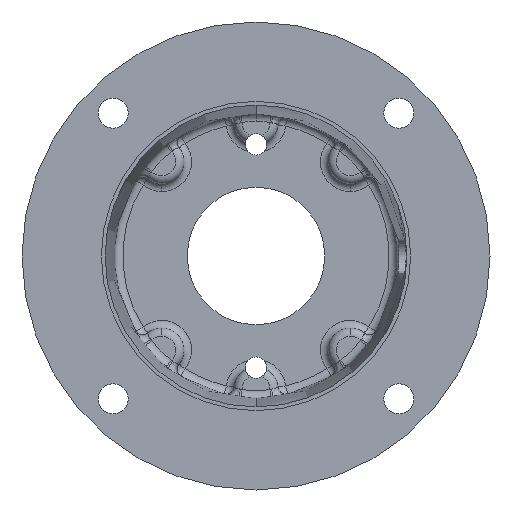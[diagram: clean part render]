
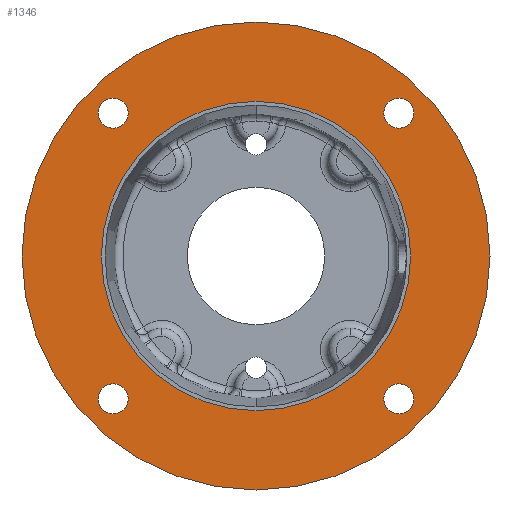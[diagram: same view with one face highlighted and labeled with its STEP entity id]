
A CAD part, front view. The second image highlights one B-rep face of the part: STEP entity #1346.
In plain terms, the highlighted planar face has unit normal (0, -1, 0).
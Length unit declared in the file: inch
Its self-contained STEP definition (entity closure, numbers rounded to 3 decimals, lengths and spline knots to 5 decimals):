
#454 = DIRECTION ( 'NONE',  ( 0., 0., -1. ) ) ;
#455 = DIRECTION ( 'NONE',  ( 0., -1., 0. ) ) ;
#456 = CARTESIAN_POINT ( 'NONE',  ( 0., 0., 0. ) ) ;
#457 = AXIS2_PLACEMENT_3D ( 'NONE', #456, #455, #454 ) ;
#458 = CIRCLE ( 'NONE', #457, 3.405 ) ;
#1287 = ORIENTED_EDGE ( 'NONE', *, *, #1343, .T. ) ;
#1341 = ORIENTED_EDGE ( 'NONE', *, *, #6618, .T. ) ;
#1342 = EDGE_LOOP ( 'NONE', ( #5983, #5978 ) ) ;
#1343 = EDGE_CURVE ( 'NONE', #6620, #6619, #7602, .T. ) ;
#1344 = EDGE_CURVE ( 'NONE', #6612, #6608, #7597, .T. ) ;
#1345 = EDGE_LOOP ( 'NONE', ( #1347, #1348 ) ) ;
#1346 = ADVANCED_FACE ( 'NONE', ( #7593, #7592, #7591, #7590, #7589, #7588 ), #7587, .F. ) ;
#1347 = ORIENTED_EDGE ( 'NONE', *, *, #1344, .F. ) ;
#1348 = ORIENTED_EDGE ( 'NONE', *, *, #6611, .F. ) ;
#1349 = EDGE_LOOP ( 'NONE', ( #1287, #1341 ) ) ;
#2414 = CARTESIAN_POINT ( 'NONE',  ( -2.07889, 0., 2.07889 ) ) ;
#2415 = DIRECTION ( 'NONE',  ( 0., 0., 1. ) ) ;
#2416 = DIRECTION ( 'NONE',  ( 0., 1., 0. ) ) ;
#2417 = AXIS2_PLACEMENT_3D ( 'NONE', #2437, #2416, #2415 ) ;
#2418 = CIRCLE ( 'NONE', #2417, 0.21875 ) ;
#2437 = CARTESIAN_POINT ( 'NONE',  ( -2.07889, 0., -2.07889 ) ) ;
#2457 = DIRECTION ( 'NONE',  ( 0., 0., 1. ) ) ;
#2458 = DIRECTION ( 'NONE',  ( 0., 1., 0. ) ) ;
#2459 = CARTESIAN_POINT ( 'NONE',  ( 2.07889, 0., 2.07889 ) ) ;
#2460 = AXIS2_PLACEMENT_3D ( 'NONE', #2459, #2458, #2457 ) ;
#2461 = CIRCLE ( 'NONE', #2460, 0.21875 ) ;
#2462 = DIRECTION ( 'NONE',  ( 0., 0., 1. ) ) ;
#2463 = DIRECTION ( 'NONE',  ( 0., 1., 0. ) ) ;
#2464 = AXIS2_PLACEMENT_3D ( 'NONE', #2414, #2463, #2462 ) ;
#2465 = CIRCLE ( 'NONE', #2464, 0.21875 ) ;
#3338 = CARTESIAN_POINT ( 'NONE',  ( 0., 0., 3.405 ) ) ;
#3736 = CARTESIAN_POINT ( 'NONE',  ( 0., 0., -3.405 ) ) ;
#3737 = DIRECTION ( 'NONE',  ( 0., 0., -1. ) ) ;
#3738 = DIRECTION ( 'NONE',  ( 0., -1., 0. ) ) ;
#3739 = CARTESIAN_POINT ( 'NONE',  ( 0., 0., 0. ) ) ;
#3740 = AXIS2_PLACEMENT_3D ( 'NONE', #3739, #3738, #3737 ) ;
#3741 = CIRCLE ( 'NONE', #3740, 3.405 ) ;
#3885 = CARTESIAN_POINT ( 'NONE',  ( 2.07889, 0., 1.86014 ) ) ;
#3896 = DIRECTION ( 'NONE',  ( 0., 0., 1. ) ) ;
#3897 = DIRECTION ( 'NONE',  ( 0., 1., 0. ) ) ;
#3898 = CARTESIAN_POINT ( 'NONE',  ( -2.07889, 0., -2.07889 ) ) ;
#3899 = AXIS2_PLACEMENT_3D ( 'NONE', #3898, #3897, #3896 ) ;
#3900 = CIRCLE ( 'NONE', #3899, 0.21875 ) ;
#3901 = CARTESIAN_POINT ( 'NONE',  ( -2.07889, 0., -2.29764 ) ) ;
#3902 = CARTESIAN_POINT ( 'NONE',  ( -2.07889, 0., -1.86014 ) ) ;
#3935 = CARTESIAN_POINT ( 'NONE',  ( -2.07889, 0., 2.29764 ) ) ;
#3936 = CARTESIAN_POINT ( 'NONE',  ( -2.07889, 0., 1.86014 ) ) ;
#3990 = DIRECTION ( 'NONE',  ( 0., 0., 1. ) ) ;
#3991 = DIRECTION ( 'NONE',  ( 0., 1., 0. ) ) ;
#3992 = CARTESIAN_POINT ( 'NONE',  ( -2.07889, 0., 2.07889 ) ) ;
#3993 = AXIS2_PLACEMENT_3D ( 'NONE', #3992, #3991, #3990 ) ;
#3994 = CIRCLE ( 'NONE', #3993, 0.21875 ) ;
#4087 = CARTESIAN_POINT ( 'NONE',  ( 2.07889, 0., 2.29764 ) ) ;
#4088 = DIRECTION ( 'NONE',  ( 0., 0., 1. ) ) ;
#4089 = DIRECTION ( 'NONE',  ( 0., 1., 0. ) ) ;
#4090 = CARTESIAN_POINT ( 'NONE',  ( 2.07889, 0., 2.07889 ) ) ;
#4091 = AXIS2_PLACEMENT_3D ( 'NONE', #4090, #4089, #4088 ) ;
#4092 = CIRCLE ( 'NONE', #4091, 0.21875 ) ;
#4128 = CARTESIAN_POINT ( 'NONE',  ( 0., 0., 2.2505 ) ) ;
#4164 = CARTESIAN_POINT ( 'NONE',  ( 2.07889, 0., -1.86014 ) ) ;
#4165 = CARTESIAN_POINT ( 'NONE',  ( 2.07889, 0., -2.29764 ) ) ;
#4166 = DIRECTION ( 'NONE',  ( 0., 0., 1. ) ) ;
#4167 = DIRECTION ( 'NONE',  ( 0., 1., 0. ) ) ;
#4168 = CARTESIAN_POINT ( 'NONE',  ( 2.07889, 0., -2.07889 ) ) ;
#4169 = AXIS2_PLACEMENT_3D ( 'NONE', #4168, #4167, #4166 ) ;
#4170 = CIRCLE ( 'NONE', #4169, 0.21875 ) ;
#4181 = CARTESIAN_POINT ( 'NONE',  ( 0., 0., -2.2505 ) ) ;
#4182 = DIRECTION ( 'NONE',  ( 0., 0., -1. ) ) ;
#4183 = DIRECTION ( 'NONE',  ( 0., -1., 0. ) ) ;
#4184 = CARTESIAN_POINT ( 'NONE',  ( 0., 0., 0. ) ) ;
#4185 = AXIS2_PLACEMENT_3D ( 'NONE', #4184, #4183, #4182 ) ;
#4186 = CIRCLE ( 'NONE', #4185, 2.2505 ) ;
#5345 = EDGE_CURVE ( 'NONE', #6275, #6418, #458, .T. ) ;
#5977 = EDGE_CURVE ( 'NONE', #6474, #6475, #2418, .T. ) ;
#5978 = ORIENTED_EDGE ( 'NONE', *, *, #6477, .T. ) ;
#5979 = ORIENTED_EDGE ( 'NONE', *, *, #5980, .T. ) ;
#5980 = EDGE_CURVE ( 'NONE', #6515, #6514, #2465, .T. ) ;
#5981 = ORIENTED_EDGE ( 'NONE', *, *, #6518, .T. ) ;
#5983 = ORIENTED_EDGE ( 'NONE', *, *, #5977, .T. ) ;
#5984 = EDGE_LOOP ( 'NONE', ( #5979, #5981 ) ) ;
#5985 = EDGE_LOOP ( 'NONE', ( #5987, #5988 ) ) ;
#5986 = EDGE_CURVE ( 'NONE', #6563, #6482, #2461, .T. ) ;
#5987 = ORIENTED_EDGE ( 'NONE', *, *, #5986, .T. ) ;
#5988 = ORIENTED_EDGE ( 'NONE', *, *, #6562, .T. ) ;
#5989 = EDGE_LOOP ( 'NONE', ( #6058, #6052 ) ) ;
#6052 = ORIENTED_EDGE ( 'NONE', *, *, #5345, .T. ) ;
#6058 = ORIENTED_EDGE ( 'NONE', *, *, #6417, .T. ) ;
#6275 = VERTEX_POINT ( 'NONE', #3338 ) ;
#6417 = EDGE_CURVE ( 'NONE', #6418, #6275, #3741, .T. ) ;
#6418 = VERTEX_POINT ( 'NONE', #3736 ) ;
#6474 = VERTEX_POINT ( 'NONE', #3902 ) ;
#6475 = VERTEX_POINT ( 'NONE', #3901 ) ;
#6477 = EDGE_CURVE ( 'NONE', #6475, #6474, #3900, .T. ) ;
#6482 = VERTEX_POINT ( 'NONE', #3885 ) ;
#6514 = VERTEX_POINT ( 'NONE', #3936 ) ;
#6515 = VERTEX_POINT ( 'NONE', #3935 ) ;
#6518 = EDGE_CURVE ( 'NONE', #6514, #6515, #3994, .T. ) ;
#6562 = EDGE_CURVE ( 'NONE', #6482, #6563, #4092, .T. ) ;
#6563 = VERTEX_POINT ( 'NONE', #4087 ) ;
#6608 = VERTEX_POINT ( 'NONE', #4128 ) ;
#6611 = EDGE_CURVE ( 'NONE', #6608, #6612, #4186, .T. ) ;
#6612 = VERTEX_POINT ( 'NONE', #4181 ) ;
#6618 = EDGE_CURVE ( 'NONE', #6619, #6620, #4170, .T. ) ;
#6619 = VERTEX_POINT ( 'NONE', #4165 ) ;
#6620 = VERTEX_POINT ( 'NONE', #4164 ) ;
#7337 = DIRECTION ( 'NONE',  ( 0., 0., 1. ) ) ;
#7582 = DIRECTION ( 'NONE',  ( 0., 1., 0. ) ) ;
#7583 = AXIS2_PLACEMENT_3D ( 'NONE', #7586, #7582, #7337 ) ;
#7586 = CARTESIAN_POINT ( 'NONE',  ( -2.20315, 0., 0. ) ) ;
#7587 = PLANE ( 'NONE',  #7583 ) ;
#7588 = FACE_OUTER_BOUND ( 'NONE', #5989, .T. ) ;
#7589 = FACE_BOUND ( 'NONE', #5985, .T. ) ;
#7590 = FACE_BOUND ( 'NONE', #5984, .T. ) ;
#7591 = FACE_BOUND ( 'NONE', #1342, .T. ) ;
#7592 = FACE_BOUND ( 'NONE', #1349, .T. ) ;
#7593 = FACE_BOUND ( 'NONE', #1345, .T. ) ;
#7594 = DIRECTION ( 'NONE',  ( 0., 0., -1. ) ) ;
#7595 = DIRECTION ( 'NONE',  ( 0., -1., 0. ) ) ;
#7596 = AXIS2_PLACEMENT_3D ( 'NONE', #7603, #7595, #7594 ) ;
#7597 = CIRCLE ( 'NONE', #7596, 2.2505 ) ;
#7598 = DIRECTION ( 'NONE',  ( 0., 0., 1. ) ) ;
#7599 = DIRECTION ( 'NONE',  ( 0., 1., 0. ) ) ;
#7600 = CARTESIAN_POINT ( 'NONE',  ( 2.07889, 0., -2.07889 ) ) ;
#7601 = AXIS2_PLACEMENT_3D ( 'NONE', #7600, #7599, #7598 ) ;
#7602 = CIRCLE ( 'NONE', #7601, 0.21875 ) ;
#7603 = CARTESIAN_POINT ( 'NONE',  ( 0., 0., 0. ) ) ;
